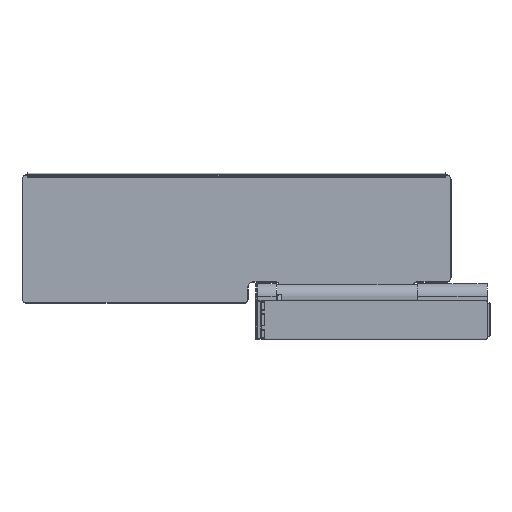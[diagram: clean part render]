
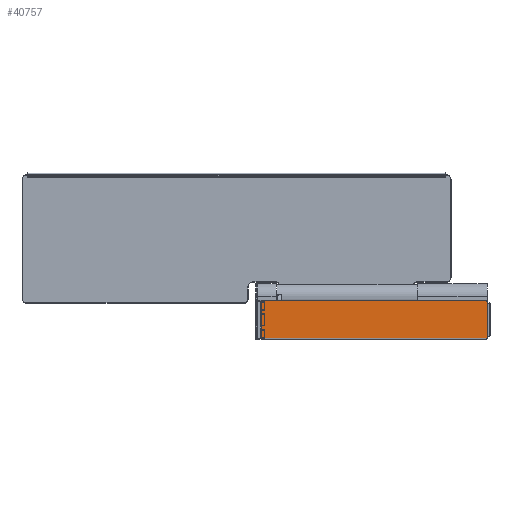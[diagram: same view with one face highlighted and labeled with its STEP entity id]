
A CAD part, left-side view. The second image highlights one B-rep face of the part: STEP entity #40757.
In plain terms, the highlighted planar face has unit normal (-1, 0, 0).
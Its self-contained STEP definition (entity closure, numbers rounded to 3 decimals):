
#3162 = VECTOR ( 'NONE', #32802, 1000. ) ;
#6123 = DIRECTION ( 'NONE',  ( 0., 0., 1. ) ) ;
#9914 = CARTESIAN_POINT ( 'NONE',  ( 0., 870., 71. ) ) ;
#10101 = ORIENTED_EDGE ( 'NONE', *, *, #39766, .F. ) ;
#10187 = LINE ( 'NONE', #31138, #58409 ) ;
#11056 = VERTEX_POINT ( 'NONE', #50353 ) ;
#14685 = ORIENTED_EDGE ( 'NONE', *, *, #52451, .T. ) ;
#14715 = ORIENTED_EDGE ( 'NONE', *, *, #32920, .F. ) ;
#14731 = DIRECTION ( 'NONE',  ( 0., 0., -1. ) ) ;
#15632 = CARTESIAN_POINT ( 'NONE',  ( 0., 870., -74. ) ) ;
#15773 = VERTEX_POINT ( 'NONE', #49998 ) ;
#15811 = CARTESIAN_POINT ( 'NONE',  ( 0., 870., -74. ) ) ;
#15931 = LINE ( 'NONE', #41981, #3162 ) ;
#16508 = EDGE_CURVE ( 'NONE', #55489, #11056, #29936, .T. ) ;
#18241 = CARTESIAN_POINT ( 'NONE',  ( 0., 3., 71. ) ) ;
#19111 = VECTOR ( 'NONE', #14731, 1000. ) ;
#19548 = VECTOR ( 'NONE', #25257, 1000. ) ;
#20213 = LINE ( 'NONE', #55725, #19548 ) ;
#20898 = PLANE ( 'NONE',  #23488 ) ;
#21025 = DIRECTION ( 'NONE',  ( 0., 1., 0. ) ) ;
#22500 = ORIENTED_EDGE ( 'NONE', *, *, #52707, .F. ) ;
#23054 = VERTEX_POINT ( 'NONE', #26593 ) ;
#23318 = CARTESIAN_POINT ( 'NONE',  ( 0., 1.5, -71. ) ) ;
#23488 = AXIS2_PLACEMENT_3D ( 'NONE', #15811, #52018, #47597 ) ;
#23656 = LINE ( 'NONE', #23318, #30798 ) ;
#24447 = VECTOR ( 'NONE', #60685, 1000. ) ;
#25257 = DIRECTION ( 'NONE',  ( 0., 0., -1. ) ) ;
#26379 = ORIENTED_EDGE ( 'NONE', *, *, #16508, .F. ) ;
#26593 = CARTESIAN_POINT ( 'NONE',  ( 0., 3., 70.999 ) ) ;
#27500 = CARTESIAN_POINT ( 'NONE',  ( 0., 870., 71. ) ) ;
#29936 = LINE ( 'NONE', #60784, #19111 ) ;
#29956 = EDGE_LOOP ( 'NONE', ( #26379, #38377, #22500, #14685, #44712, #36888, #14715, #10101 ) ) ;
#30798 = VECTOR ( 'NONE', #39222, 1000. ) ;
#31138 = CARTESIAN_POINT ( 'NONE',  ( 0., 870., -70.999 ) ) ;
#31715 = VERTEX_POINT ( 'NONE', #18241 ) ;
#32718 = CARTESIAN_POINT ( 'NONE',  ( 0., 870., -71. ) ) ;
#32802 = DIRECTION ( 'NONE',  ( 0., 0., 1. ) ) ;
#32920 = EDGE_CURVE ( 'NONE', #61997, #48882, #47089, .T. ) ;
#33063 = DIRECTION ( 'NONE',  ( 0., 1., 0. ) ) ;
#36076 = CARTESIAN_POINT ( 'NONE',  ( 0., 3., 70.999 ) ) ;
#36229 = CARTESIAN_POINT ( 'NONE',  ( 0., 3., -70.999 ) ) ;
#36888 = ORIENTED_EDGE ( 'NONE', *, *, #45683, .F. ) ;
#38302 = VECTOR ( 'NONE', #6123, 1000. ) ;
#38377 = ORIENTED_EDGE ( 'NONE', *, *, #66053, .F. ) ;
#39222 = DIRECTION ( 'NONE',  ( 0., 1., 0. ) ) ;
#39766 = EDGE_CURVE ( 'NONE', #11056, #61997, #23656, .T. ) ;
#40757 = ADVANCED_FACE ( 'NONE', ( #58097 ), #20898, .F. ) ;
#41981 = CARTESIAN_POINT ( 'NONE',  ( 0., 3., -74. ) ) ;
#42253 = CARTESIAN_POINT ( 'NONE',  ( 0., 870., 71. ) ) ;
#44712 = ORIENTED_EDGE ( 'NONE', *, *, #64969, .T. ) ;
#45683 = EDGE_CURVE ( 'NONE', #48882, #31715, #46453, .T. ) ;
#46453 = LINE ( 'NONE', #9914, #24447 ) ;
#46545 = VECTOR ( 'NONE', #33063, 1000. ) ;
#47089 = LINE ( 'NONE', #15632, #38302 ) ;
#47597 = DIRECTION ( 'NONE',  ( 0., 0., -1. ) ) ;
#48882 = VERTEX_POINT ( 'NONE', #27500 ) ;
#49998 = CARTESIAN_POINT ( 'NONE',  ( 0., 3., -70.999 ) ) ;
#50353 = CARTESIAN_POINT ( 'NONE',  ( 0., 3., -71. ) ) ;
#52018 = DIRECTION ( 'NONE',  ( 1., 0., 0. ) ) ;
#52451 = EDGE_CURVE ( 'NONE', #52667, #23054, #63259, .T. ) ;
#52667 = VERTEX_POINT ( 'NONE', #36076 ) ;
#52707 = EDGE_CURVE ( 'NONE', #52667, #15773, #20213, .T. ) ;
#55489 = VERTEX_POINT ( 'NONE', #36229 ) ;
#55725 = CARTESIAN_POINT ( 'NONE',  ( 0., 3., 73.585 ) ) ;
#58097 = FACE_OUTER_BOUND ( 'NONE', #29956, .T. ) ;
#58409 = VECTOR ( 'NONE', #21025, 1000. ) ;
#60685 = DIRECTION ( 'NONE',  ( 0., -1., 0. ) ) ;
#60784 = CARTESIAN_POINT ( 'NONE',  ( 0., 3.001, -74. ) ) ;
#61997 = VERTEX_POINT ( 'NONE', #32718 ) ;
#63259 = LINE ( 'NONE', #42253, #46545 ) ;
#64969 = EDGE_CURVE ( 'NONE', #23054, #31715, #15931, .T. ) ;
#66053 = EDGE_CURVE ( 'NONE', #15773, #55489, #10187, .T. ) ;
